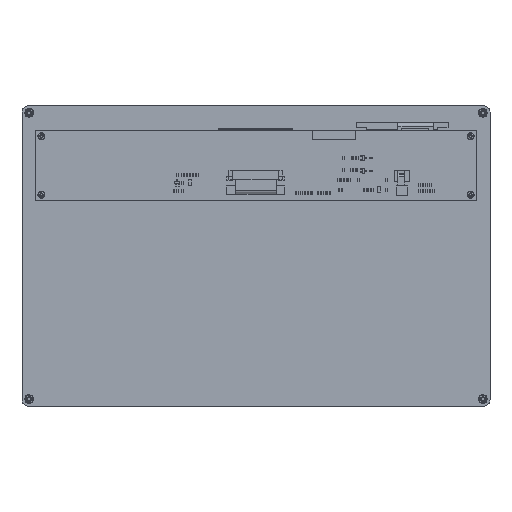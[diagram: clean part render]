
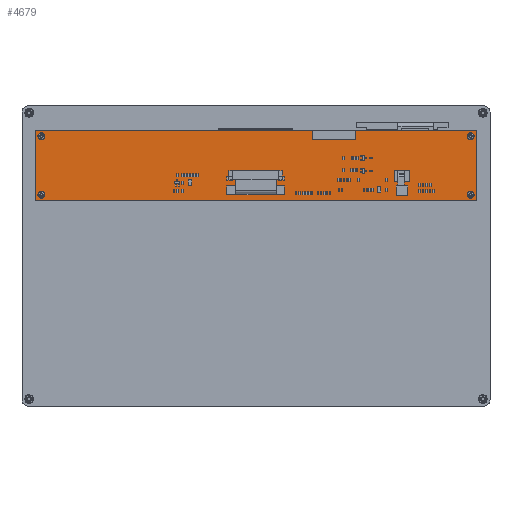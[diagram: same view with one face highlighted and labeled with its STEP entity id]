
A CAD part, top view. The second image highlights one B-rep face of the part: STEP entity #4679.
In plain terms, the highlighted planar face has unit normal (0, 0, 1).
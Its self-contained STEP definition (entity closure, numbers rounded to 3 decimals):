
#4156=DIRECTION('',(0.,1.,0.));
#4157=VECTOR('',#4156,40.005);
#4158=CARTESIAN_POINT('',(0.,0.,0.411));
#4159=LINE('',#4158,#4157);
#4163=DIRECTION('',(1.,0.,0.));
#4164=VECTOR('',#4163,250.);
#4165=CARTESIAN_POINT('',(0.,40.005,0.411));
#4166=LINE('',#4165,#4164);
#4170=DIRECTION('',(0.,-1.,0.));
#4171=VECTOR('',#4170,40.005);
#4172=CARTESIAN_POINT('',(250.,40.005,0.411));
#4173=LINE('',#4172,#4171);
#4177=DIRECTION('',(-1.,0.,0.));
#4178=VECTOR('',#4177,250.);
#4179=CARTESIAN_POINT('',(250.,0.,0.411));
#4180=LINE('',#4179,#4178);
#4184=CARTESIAN_POINT('',(3.5,3.5,0.411));
#4185=DIRECTION('',(0.,0.,-1.));
#4186=DIRECTION('',(-1.,0.,0.));
#4187=AXIS2_PLACEMENT_3D('',#4184,#4185,#4186);
#4192=CARTESIAN_POINT('',(3.5,3.5,0.411));
#4193=DIRECTION('',(0.,0.,-1.));
#4194=DIRECTION('',(1.,0.,0.));
#4195=AXIS2_PLACEMENT_3D('',#4192,#4193,#4194);
#4200=CARTESIAN_POINT('',(3.5,36.5,0.411));
#4201=DIRECTION('',(0.,0.,-1.));
#4202=DIRECTION('',(-1.,0.,0.));
#4203=AXIS2_PLACEMENT_3D('',#4200,#4201,#4202);
#4208=CARTESIAN_POINT('',(3.5,36.5,0.411));
#4209=DIRECTION('',(0.,0.,-1.));
#4210=DIRECTION('',(1.,0.,0.));
#4211=AXIS2_PLACEMENT_3D('',#4208,#4209,#4210);
#4216=CARTESIAN_POINT('',(246.5,3.5,0.411));
#4217=DIRECTION('',(0.,0.,-1.));
#4218=DIRECTION('',(-1.,0.,0.));
#4219=AXIS2_PLACEMENT_3D('',#4216,#4217,#4218);
#4224=CARTESIAN_POINT('',(246.5,3.5,0.411));
#4225=DIRECTION('',(0.,0.,-1.));
#4226=DIRECTION('',(1.,0.,0.));
#4227=AXIS2_PLACEMENT_3D('',#4224,#4225,#4226);
#4232=CARTESIAN_POINT('',(246.5,36.5,0.411));
#4233=DIRECTION('',(0.,0.,-1.));
#4234=DIRECTION('',(-1.,0.,0.));
#4235=AXIS2_PLACEMENT_3D('',#4232,#4233,#4234);
#4240=CARTESIAN_POINT('',(246.5,36.5,0.411));
#4241=DIRECTION('',(0.,0.,-1.));
#4242=DIRECTION('',(1.,0.,0.));
#4243=AXIS2_PLACEMENT_3D('',#4240,#4241,#4242);
#4248=DIRECTION('',(0.,-1.,0.));
#4249=VECTOR('',#4248,6.4);
#4250=CARTESIAN_POINT('',(37.8,29.305,0.411));
#4251=LINE('',#4250,#4249);
#4255=DIRECTION('',(1.,0.,0.));
#4256=VECTOR('',#4255,9.);
#4257=CARTESIAN_POINT('',(37.8,22.905,0.411));
#4258=LINE('',#4257,#4256);
#4262=DIRECTION('',(0.,1.,0.));
#4263=VECTOR('',#4262,6.4);
#4264=CARTESIAN_POINT('',(46.8,22.905,0.411));
#4265=LINE('',#4264,#4263);
#4269=DIRECTION('',(-1.,0.,0.));
#4270=VECTOR('',#4269,9.);
#4271=CARTESIAN_POINT('',(46.8,29.305,0.411));
#4272=LINE('',#4271,#4270);
#4276=DIRECTION('',(0.,-1.,0.));
#4277=VECTOR('',#4276,5.);
#4278=CARTESIAN_POINT('',(109.,36.605,0.411));
#4279=LINE('',#4278,#4277);
#4283=DIRECTION('',(1.,0.,0.));
#4284=VECTOR('',#4283,32.5);
#4285=CARTESIAN_POINT('',(109.,31.605,0.411));
#4286=LINE('',#4285,#4284);
#4290=DIRECTION('',(0.,1.,0.));
#4291=VECTOR('',#4290,5.);
#4292=CARTESIAN_POINT('',(141.5,31.605,0.411));
#4293=LINE('',#4292,#4291);
#4297=DIRECTION('',(-1.,0.,0.));
#4298=VECTOR('',#4297,32.5);
#4299=CARTESIAN_POINT('',(141.5,36.605,0.411));
#4300=LINE('',#4299,#4298);
#4402=CARTESIAN_POINT('',(0.,0.,0.411));
#4403=CARTESIAN_POINT('',(0.,40.005,0.411));
#4404=VERTEX_POINT('',#4402);
#4405=VERTEX_POINT('',#4403);
#4406=CARTESIAN_POINT('',(250.,40.005,0.411));
#4407=VERTEX_POINT('',#4406);
#4408=CARTESIAN_POINT('',(250.,0.,0.411));
#4409=VERTEX_POINT('',#4408);
#4410=CARTESIAN_POINT('',(2.,3.5,0.411));
#4411=CARTESIAN_POINT('',(5.,3.5,0.411));
#4412=VERTEX_POINT('',#4410);
#4413=VERTEX_POINT('',#4411);
#4414=CARTESIAN_POINT('',(2.,36.5,0.411));
#4415=CARTESIAN_POINT('',(5.,36.5,0.411));
#4416=VERTEX_POINT('',#4414);
#4417=VERTEX_POINT('',#4415);
#4418=CARTESIAN_POINT('',(245.,3.5,0.411));
#4419=CARTESIAN_POINT('',(248.,3.5,0.411));
#4420=VERTEX_POINT('',#4418);
#4421=VERTEX_POINT('',#4419);
#4422=CARTESIAN_POINT('',(245.,36.5,0.411));
#4423=CARTESIAN_POINT('',(248.,36.5,0.411));
#4424=VERTEX_POINT('',#4422);
#4425=VERTEX_POINT('',#4423);
#4450=CARTESIAN_POINT('',(37.8,29.305,0.411));
#4451=CARTESIAN_POINT('',(37.8,22.905,0.411));
#4452=VERTEX_POINT('',#4450);
#4453=VERTEX_POINT('',#4451);
#4454=CARTESIAN_POINT('',(46.8,22.905,0.411));
#4455=VERTEX_POINT('',#4454);
#4456=CARTESIAN_POINT('',(46.8,29.305,0.411));
#4457=VERTEX_POINT('',#4456);
#4458=CARTESIAN_POINT('',(109.,36.605,0.411));
#4459=CARTESIAN_POINT('',(109.,31.605,0.411));
#4460=VERTEX_POINT('',#4458);
#4461=VERTEX_POINT('',#4459);
#4462=CARTESIAN_POINT('',(141.5,31.605,0.411));
#4463=VERTEX_POINT('',#4462);
#4464=CARTESIAN_POINT('',(141.5,36.605,0.411));
#4465=VERTEX_POINT('',#4464);
#4626=CARTESIAN_POINT('',(0.,0.,0.411));
#4627=DIRECTION('',(0.,0.,1.));
#4628=DIRECTION('',(1.,0.,0.));
#4629=AXIS2_PLACEMENT_3D('',#4626,#4627,#4628);
#4630=PLANE('',#4629);
#4631=ORIENTED_EDGE('',*,*,#4493,.T.);
#4632=ORIENTED_EDGE('',*,*,#4537,.T.);
#4633=ORIENTED_EDGE('',*,*,#4523,.T.);
#4634=ORIENTED_EDGE('',*,*,#4508,.T.);
#4635=EDGE_LOOP('',(#4631,#4632,#4633,#4634));
#4636=FACE_OUTER_BOUND('',#4635,.F.);
#4637=ORIENTED_EDGE('',*,*,#4619,.F.);
#4638=ORIENTED_EDGE('',*,*,#4608,.F.);
#4639=EDGE_LOOP('',(#4637,#4638));
#4640=FACE_BOUND('',#4639,.F.);
#4642=ORIENTED_EDGE('',*,*,#4641,.F.);
#4644=ORIENTED_EDGE('',*,*,#4643,.F.);
#4645=EDGE_LOOP('',(#4642,#4644));
#4646=FACE_BOUND('',#4645,.F.);
#4648=ORIENTED_EDGE('',*,*,#4647,.F.);
#4650=ORIENTED_EDGE('',*,*,#4649,.F.);
#4651=EDGE_LOOP('',(#4648,#4650));
#4652=FACE_BOUND('',#4651,.F.);
#4654=ORIENTED_EDGE('',*,*,#4653,.F.);
#4656=ORIENTED_EDGE('',*,*,#4655,.F.);
#4657=EDGE_LOOP('',(#4654,#4656));
#4658=FACE_BOUND('',#4657,.F.);
#4660=ORIENTED_EDGE('',*,*,#4659,.T.);
#4662=ORIENTED_EDGE('',*,*,#4661,.T.);
#4664=ORIENTED_EDGE('',*,*,#4663,.T.);
#4666=ORIENTED_EDGE('',*,*,#4665,.T.);
#4667=EDGE_LOOP('',(#4660,#4662,#4664,#4666));
#4668=FACE_BOUND('',#4667,.F.);
#4670=ORIENTED_EDGE('',*,*,#4669,.T.);
#4672=ORIENTED_EDGE('',*,*,#4671,.T.);
#4674=ORIENTED_EDGE('',*,*,#4673,.T.);
#4676=ORIENTED_EDGE('',*,*,#4675,.T.);
#4677=EDGE_LOOP('',(#4670,#4672,#4674,#4676));
#4678=FACE_BOUND('',#4677,.F.);
#4679=ADVANCED_FACE('',(#4636,#4640,#4646,#4652,#4658,#4668,#4678),#4630,.T.);
#4188=CIRCLE('',#4187,1.5);
#4196=CIRCLE('',#4195,1.5);
#4204=CIRCLE('',#4203,1.5);
#4212=CIRCLE('',#4211,1.5);
#4220=CIRCLE('',#4219,1.5);
#4228=CIRCLE('',#4227,1.5);
#4236=CIRCLE('',#4235,1.5);
#4244=CIRCLE('',#4243,1.5);
#4493=EDGE_CURVE('',#4404,#4405,#4159,.T.);
#4508=EDGE_CURVE('',#4409,#4404,#4180,.T.);
#4523=EDGE_CURVE('',#4407,#4409,#4173,.T.);
#4537=EDGE_CURVE('',#4405,#4407,#4166,.T.);
#4608=EDGE_CURVE('',#4413,#4412,#4196,.T.);
#4619=EDGE_CURVE('',#4412,#4413,#4188,.T.);
#4641=EDGE_CURVE('',#4416,#4417,#4204,.T.);
#4643=EDGE_CURVE('',#4417,#4416,#4212,.T.);
#4647=EDGE_CURVE('',#4420,#4421,#4220,.T.);
#4649=EDGE_CURVE('',#4421,#4420,#4228,.T.);
#4653=EDGE_CURVE('',#4424,#4425,#4236,.T.);
#4655=EDGE_CURVE('',#4425,#4424,#4244,.T.);
#4659=EDGE_CURVE('',#4452,#4453,#4251,.T.);
#4661=EDGE_CURVE('',#4453,#4455,#4258,.T.);
#4663=EDGE_CURVE('',#4455,#4457,#4265,.T.);
#4665=EDGE_CURVE('',#4457,#4452,#4272,.T.);
#4669=EDGE_CURVE('',#4460,#4461,#4279,.T.);
#4671=EDGE_CURVE('',#4461,#4463,#4286,.T.);
#4673=EDGE_CURVE('',#4463,#4465,#4293,.T.);
#4675=EDGE_CURVE('',#4465,#4460,#4300,.T.);
